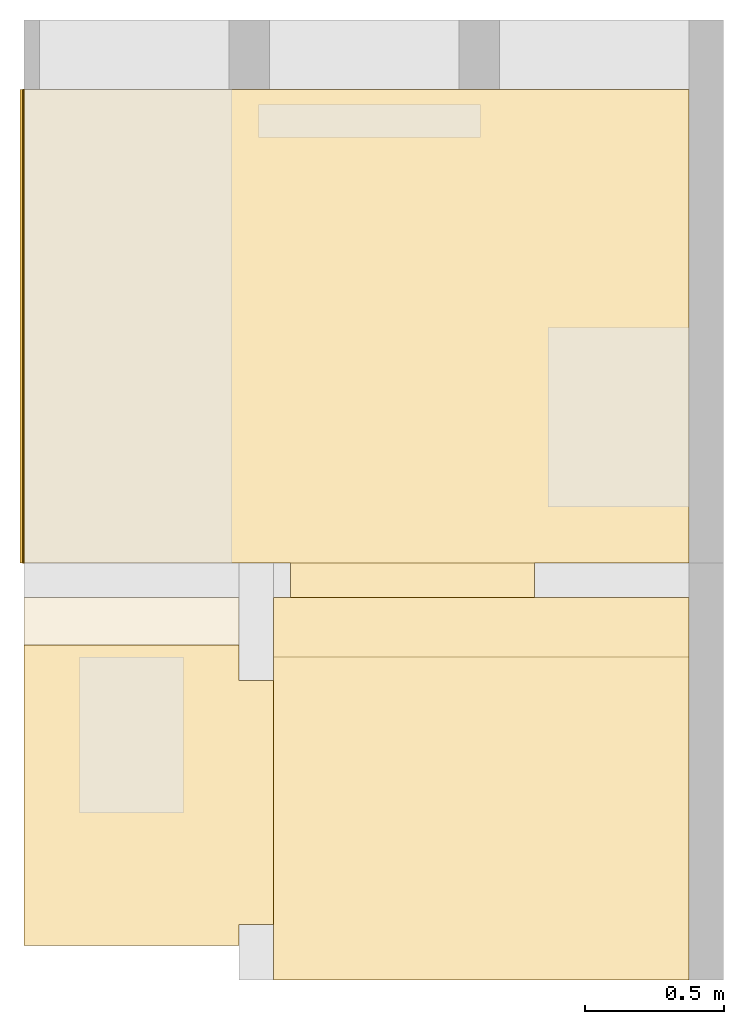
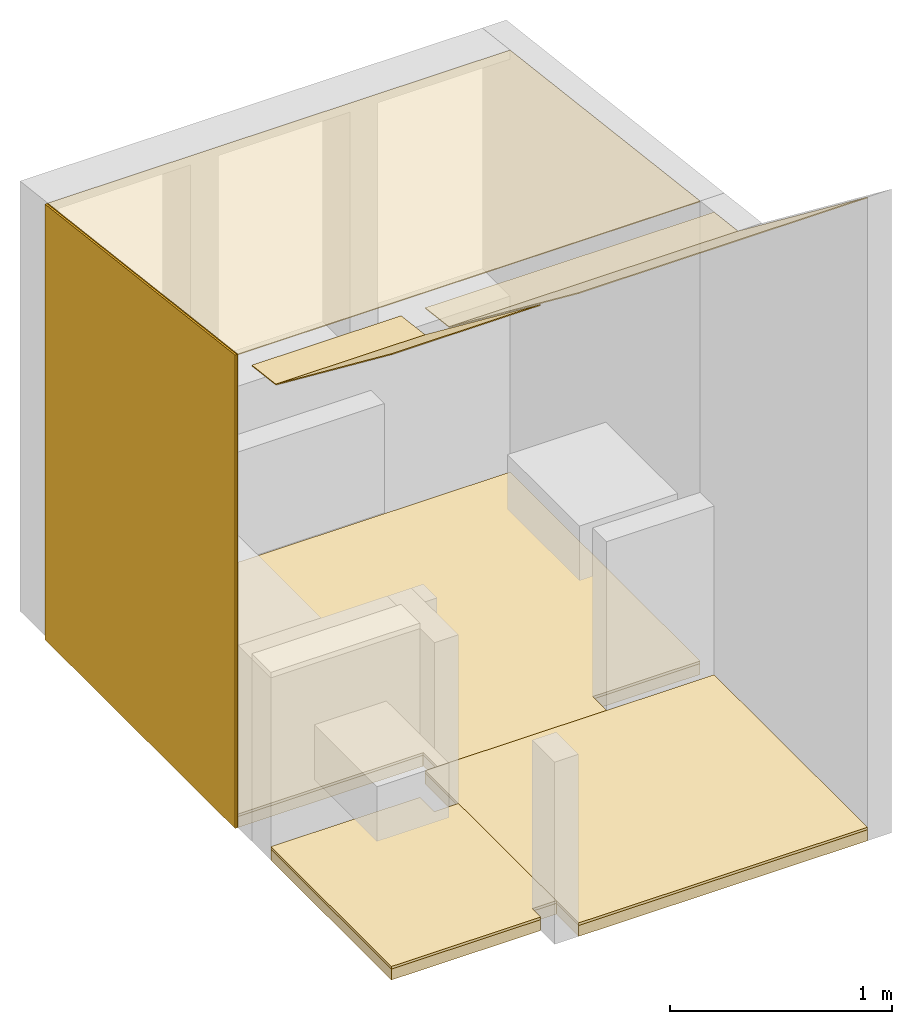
# One storey, part 2 of 4: 11 coverings, 7 elements without a shape of their own.
"""IFC4 building model written with IfcOpenShell, lengths in metres."""

from ifc_helpers import new_model, entity, si_unit, converted_unit, derived_unit, frame, frame_2d, origin, origin_with_axes, place, context, subcontext, project, spatial, polyline, rectangle, outline, extrude, material, layer, layer_set, layer_usage, element, aggregate, save


model = new_model("IFC4")

# Units and contexts
model_context = context("Model", 3, precision=1e-05, world=origin())
body_context = subcontext(model_context, "Body", "Model", "MODEL_VIEW")
ifc_project = project(units=[si_unit("LENGTHUNIT", "METRE"), si_unit("AREAUNIT", "SQUARE_METRE"), si_unit("VOLUMEUNIT", "CUBIC_METRE"), si_unit("MASSUNIT", "GRAM", prefix="KILO"), converted_unit("PLANEANGLEUNIT", "DEGREE", entity("IfcPlaneAngleMeasure", 0.0174532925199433), si_unit("PLANEANGLEUNIT", "RADIAN"), dimensions=[0, 0, 0, 0, 0, 0, 0]), derived_unit("THERMALTRANSMITTANCEUNIT", [(si_unit("POWERUNIT", "WATT"), 1), (si_unit("THERMODYNAMICTEMPERATUREUNIT", "KELVIN"), -1), (si_unit("LENGTHUNIT", "METRE"), -2)]), derived_unit("VOLUMETRICFLOWRATEUNIT", [(si_unit("LENGTHUNIT", "METRE"), 3), (converted_unit("TIMEUNIT", "hour", entity("IfcTimeMeasure", 3600.0), si_unit("TIMEUNIT", "SECOND"), dimensions=[0, 0, 1, 0, 0, 0, 0]), -1), (si_unit("LENGTHUNIT", "METRE"), -1)])], contexts=[model_context])

# Site, building, storey, space
site_placement = place(None, origin())
site = spatial("IfcSite", under=ifc_project, at=site_placement, Name="Liegenschaft", CompositionType="ELEMENT")
building_placement = place(site_placement, origin())
building = spatial("IfcBuilding", under=site, at=building_placement, Name="Gebäude", CompositionType="ELEMENT")
storey_placement = place(building_placement, origin())
storey = spatial("IfcBuildingStorey", under=building, at=storey_placement, Name="Geschoss 01", CompositionType="ELEMENT", Elevation=0.0)
space_1_placement = place(storey_placement, frame((192.297586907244, 0.442418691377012, 0.0)))
space_1 = spatial("IfcSpace", under=storey, at=space_1_placement, CompositionType="ELEMENT")

# Assembly, covering
assembly_1_placement = place(space_1_placement, frame((-192.297586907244, -0.442418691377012, 0.0)))
assembly_1 = element("IfcElementAssembly", 1, at=assembly_1_placement, inside=space_1, PredefinedType="NOTDEFINED")
ifc_material_1 = material(Name="Putz")
ifc_layer_1 = layer(ifc_material_1, 0.005)
ifc_layer_set_1 = layer_set([ifc_layer_1])
ifc_layer_usage_1 = layer_usage(ifc_layer_set_1, "AXIS3", "POSITIVE", 0.0)
covering_1_placement = place(space_1_placement, frame((0.0, 0.0, 2.61382608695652)))
covering_1 = element("IfcCovering", 2, at=covering_1_placement, material=ifc_layer_usage_1, PredefinedType="CEILING", context=body_context, shape_type="SweptSolid", body=[
    extrude(rectangle(XDim=0.216587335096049, YDim=1.5, at=frame_2d((0.75, -0.108293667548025), x_axis=(0.0, -1.0))), frame((1.5, 1.38, 0.0), z_axis=(0.0, -0.120846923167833, -0.992671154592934), x_axis=(-1.0, 0.0, 0.0)), (0.0, 0.120846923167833, 0.992671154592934), 0.00503691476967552),
    extrude(rectangle(XDim=1.5, YDim=1.46810461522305, at=frame_2d((0.75, 0.734052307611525), x_axis=(1.0, -7.5791225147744e-17))), frame((1.5, 0.0, 0.919541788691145), z_axis=(-2.64321131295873e-17, -0.608517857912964, -0.79354017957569), x_axis=(-1.0, 4.34368733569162e-17, 0.0)), (0.0, 0.608517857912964, 0.79354017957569), 0.00630087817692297),
])
aggregate(assembly_1, [covering_1])

# Assembly, coverings
assembly_2_placement = place(space_1_placement, frame((-192.297586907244, -0.442418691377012, 0.0)))
assembly_2 = element("IfcElementAssembly", 3, at=assembly_2_placement, inside=space_1, PredefinedType="NOTDEFINED")
ifc_material_2 = material(Name="OSB Platte")
ifc_layer_2 = layer(ifc_material_2, 0.06)
ifc_layer_set_2 = layer_set([ifc_layer_2])
ifc_layer_usage_2 = layer_usage(ifc_layer_set_2, "AXIS3", "POSITIVE", 0.0)
covering_2_placement = place(space_1_placement, origin())
covering_2 = element("IfcCovering", 4, at=covering_2_placement, material=ifc_layer_usage_2, PredefinedType="FLOORING", context=body_context, shape_type="SweptSolid", body=[
    extrude(rectangle(XDim=1.5, YDim=1.38, at=frame_2d((-0.75, -0.69), x_axis=(-1.0, 0.0))), frame((1.5, 1.38, 0.0), z_axis=(0.0, 0.0, 1.0), x_axis=(1.0, 0.0, 0.0)), (0.0, 0.0, 1.0), 0.06),
])
ifc_material_3 = material(Name="Fliesen")
ifc_layer_3 = layer(ifc_material_3, 0.014)
ifc_layer_set_3 = layer_set([ifc_layer_3])
ifc_layer_usage_3 = layer_usage(ifc_layer_set_3, "AXIS3", "POSITIVE", 0.0)
covering_3_placement = place(space_1_placement, frame((0.0, 0.0, 0.06)))
covering_3 = element("IfcCovering", 5, at=covering_3_placement, material=ifc_layer_usage_3, PredefinedType="FLOORING", context=body_context, shape_type="SweptSolid", body=[
    extrude(rectangle(XDim=1.5, YDim=1.38, at=frame_2d((-0.75, -0.69), x_axis=(-1.0, 0.0))), frame((1.5, 1.38, 0.0), z_axis=(0.0, 0.0, 1.0), x_axis=(1.0, 0.0, 0.0)), (0.0, 0.0, 1.0), 0.014),
])
aggregate(assembly_2, [covering_2, covering_3])

# Space
space_2_placement = place(storey_placement, frame((191.397586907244, 0.567418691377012, 0.0)))
space_2 = spatial("IfcSpace", under=storey, at=space_2_placement, CompositionType="ELEMENT")

# Assembly, covering
assembly_3_placement = place(space_2_placement, frame((-191.397586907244, -0.567418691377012, 0.0)))
assembly_3 = element("IfcElementAssembly", 6, at=assembly_3_placement, inside=space_2, PredefinedType="NOTDEFINED")
ifc_material_4 = material(Name="Putz")
ifc_layer_4 = layer(ifc_material_4, 0.005)
ifc_layer_set_4 = layer_set([ifc_layer_4])
ifc_layer_usage_4 = layer_usage(ifc_layer_set_4, "AXIS3", "POSITIVE", 0.0)
covering_4_placement = place(space_2_placement, frame((0.0, 0.0, 2.61382608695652)))
covering_4 = element("IfcCovering", 7, at=covering_4_placement, material=ifc_layer_usage_4, PredefinedType="CEILING", context=body_context, shape_type="SweptSolid", body=[
    extrude(rectangle(XDim=0.775, YDim=0.216587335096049, at=frame_2d((-0.3875, -0.108293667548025), x_axis=(-1.0, 0.0))), frame((0.0, 1.255, 0.0), z_axis=(1.35458237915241e-18, -0.120846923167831, -0.992671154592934), x_axis=(-1.0, -1.12090762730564e-17, 0.0)), (0.0, 0.120846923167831, 0.992671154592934), 0.00503691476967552),
    extrude(rectangle(XDim=0.775, YDim=1.31058266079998, at=frame_2d((0.3875, 0.655291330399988), x_axis=(1.0, 0.0))), frame((0.775, 0.0, 0.823686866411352), z_axis=(0.0, -0.608517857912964, -0.79354017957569), x_axis=(-1.0, 0.0, 0.0)), (0.0, 0.608517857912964, 0.79354017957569), 0.00630087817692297),
])
aggregate(assembly_3, [covering_4])

# Assembly, coverings
assembly_4_placement = place(space_2_placement, frame((-191.397586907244, -0.567418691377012, 0.0)))
assembly_4 = element("IfcElementAssembly", 8, at=assembly_4_placement, inside=space_2, PredefinedType="NOTDEFINED")
ifc_material_5 = material(Name="OSB Platte")
ifc_layer_5 = layer(ifc_material_5, 0.06)
ifc_layer_set_5 = layer_set([ifc_layer_5])
ifc_layer_usage_5 = layer_usage(ifc_layer_set_5, "AXIS3", "POSITIVE", 0.0)
covering_5_placement = place(space_2_placement, origin())
covering_5 = element("IfcCovering", 9, at=covering_5_placement, material=ifc_layer_usage_5, PredefinedType="FLOORING", context=body_context, shape_type="SweptSolid", body=[
    extrude(rectangle(XDim=0.125, YDim=0.88, at=frame_2d((0.0625, 0.44), x_axis=(1.0, 0.0))), frame((0.775, 0.076, 0.0), z_axis=(0.0, 0.0, 1.0), x_axis=(1.0, 0.0, 0.0)), (0.0, 0.0, 1.0), 0.06),
    extrude(rectangle(XDim=0.775, YDim=1.085, at=frame_2d((0.3875, 0.5425), x_axis=(1.0, 0.0))), origin_with_axes(), (0.0, 0.0, 1.0), 0.06),
])
ifc_material_6 = material(Name="Fliesen")
ifc_layer_6 = layer(ifc_material_6, 0.014)
ifc_layer_set_6 = layer_set([ifc_layer_6])
ifc_layer_usage_6 = layer_usage(ifc_layer_set_6, "AXIS3", "POSITIVE", 0.0)
covering_6_placement = place(space_2_placement, frame((0.0, 0.0, 0.0599999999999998)))
covering_6 = element("IfcCovering", 10, at=covering_6_placement, material=ifc_layer_usage_6, PredefinedType="FLOORING", context=body_context, shape_type="SweptSolid", body=[
    extrude(rectangle(XDim=0.125, YDim=0.88, at=frame_2d((0.0625, 0.44), x_axis=(1.0, 0.0))), frame((0.775, 0.076, 0.0), z_axis=(0.0, 0.0, 1.0), x_axis=(1.0, 0.0, 0.0)), (0.0, 0.0, 1.0), 0.014),
    extrude(rectangle(XDim=0.775, YDim=1.085, at=frame_2d((0.3875, 0.5425), x_axis=(1.0, 0.0))), origin_with_axes(), (0.0, 0.0, 1.0), 0.014),
])
aggregate(assembly_4, [covering_5, covering_6])

# Space
space_3_placement = place(storey_placement, frame((191.397586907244, 1.94741869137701, 0.0)))
space_3 = spatial("IfcSpace", under=storey, at=space_3_placement, CompositionType="ELEMENT")

# Assembly, covering
assembly_5_placement = place(space_3_placement, frame((-191.397586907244, -1.94741869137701, 0.0)))
assembly_5 = element("IfcElementAssembly", 11, at=assembly_5_placement, inside=space_3, PredefinedType="NOTDEFINED")
ifc_material_7 = material(Name="Putz")
ifc_layer_7 = layer(ifc_material_7, 0.005)
ifc_layer_set_7 = layer_set([ifc_layer_7])
ifc_layer_usage_7 = layer_usage(ifc_layer_set_7, "AXIS3", "POSITIVE", 0.0)
covering_7_placement = place(space_3_placement, frame((0.0, 0.0, 2.3904347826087)))
covering_7 = element("IfcCovering", 12, at=covering_7_placement, material=ifc_layer_usage_7, PredefinedType="CEILING", context=body_context, shape_type="SweptSolid", body=[
    extrude(rectangle(XDim=1.72262485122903, YDim=2.4, at=frame_2d((-1.2, 0.861312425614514), x_axis=(0.0, 1.0))), frame((0.0, 0.0, 0.208173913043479), z_axis=(0.0, -0.120846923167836, -0.992671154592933), x_axis=(-1.0, 0.0, 0.0)), (0.0, 0.120846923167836, 0.992671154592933), 0.00503691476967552),
])
aggregate(assembly_5, [covering_7])

# Assembly, coverings
assembly_6_placement = place(space_3_placement, frame((-191.397586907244, -1.94741869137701, 0.0)))
assembly_6 = element("IfcElementAssembly", 13, at=assembly_6_placement, inside=space_3, PredefinedType="NOTDEFINED")
ifc_material_8 = material(Name="OSB Platte")
ifc_layer_8 = layer(ifc_material_8, 0.06)
ifc_layer_set_8 = layer_set([ifc_layer_8])
ifc_layer_usage_8 = layer_usage(ifc_layer_set_8, "AXIS3", "POSITIVE", 0.0)
covering_8_placement = place(space_3_placement, frame((0.0, -0.125, 0.0)))
covering_8 = element("IfcCovering", 14, at=covering_8_placement, material=ifc_layer_usage_8, PredefinedType="FLOORING", context=body_context, shape_type="SweptSolid", body=[
    extrude(rectangle(XDim=0.125, YDim=0.88, at=frame_2d((0.44, -0.0625), x_axis=(0.0, -1.0))), frame((0.962, 0.125, 0.0), z_axis=(0.0, 0.0, 1.0), x_axis=(1.0, 0.0, 0.0)), (0.0, 0.0, 1.0), 0.06),
    extrude(rectangle(XDim=1.71, YDim=2.4, at=frame_2d((1.2, -0.855), x_axis=(0.0, -1.0))), frame((0.0, 1.835, 0.0), z_axis=(0.0, 0.0, 1.0), x_axis=(1.0, 0.0, 0.0)), (0.0, 0.0, 1.0), 0.06),
])
ifc_material_9 = material(Name="Fliesen")
ifc_layer_9 = layer(ifc_material_9, 0.014)
ifc_layer_set_9 = layer_set([ifc_layer_9])
ifc_layer_usage_9 = layer_usage(ifc_layer_set_9, "AXIS3", "POSITIVE", 0.0)
covering_9_placement = place(space_3_placement, frame((0.0, -0.125, 0.06)))
covering_9 = element("IfcCovering", 15, at=covering_9_placement, material=ifc_layer_usage_9, PredefinedType="FLOORING", context=body_context, shape_type="SweptSolid", body=[
    extrude(rectangle(XDim=0.125, YDim=0.88, at=frame_2d((0.44, -0.0625), x_axis=(0.0, -1.0))), frame((0.962, 0.125, 0.0), z_axis=(0.0, 0.0, 1.0), x_axis=(1.0, 0.0, 0.0)), (0.0, 0.0, 1.0), 0.014),
    extrude(rectangle(XDim=1.71, YDim=2.4, at=frame_2d((1.2, -0.855), x_axis=(0.0, -1.0))), frame((0.0, 1.835, 0.0), z_axis=(0.0, 0.0, 1.0), x_axis=(1.0, 0.0, 0.0)), (0.0, 0.0, 1.0), 0.014),
])
aggregate(assembly_6, [covering_8, covering_9])

assembly_7_placement = place(space_3_placement, frame((-191.397586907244, -1.94741869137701, 0.0)))
assembly_7 = element("IfcElementAssembly", 16, at=assembly_7_placement, inside=space_3, PredefinedType="NOTDEFINED")
ifc_material_10 = material(Name="Putz")
ifc_layer_10 = layer(ifc_material_10, 0.005)
ifc_layer_set_10 = layer_set([ifc_layer_10])
ifc_layer_usage_10 = layer_usage(ifc_layer_set_10, "AXIS3", "POSITIVE", 0.0)
covering_10_placement = place(space_3_placement, origin())
covering_10 = element("IfcCovering", 17, at=covering_10_placement, material=ifc_layer_usage_10, PredefinedType="CLADDING", context=body_context, shape_type="SweptSolid", body=[
    extrude(outline(polyline([(1.71, 2.59860869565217), (1.71, 0.208173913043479), (0.0, 0.0), (0.0, 2.59860869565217), (1.71, 2.59860869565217)])), frame((0.0, 0.0, 2.59860869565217), z_axis=(-1.0, 0.0, 0.0), x_axis=(0.0, 1.0, 0.0)), (0.0, 0.0, 1.0), 0.005),
])
ifc_material_11 = material(Name="Fliesen")
ifc_layer_11 = layer(ifc_material_11, 0.01)
ifc_layer_set_11 = layer_set([ifc_layer_11])
ifc_layer_usage_11 = layer_usage(ifc_layer_set_11, "AXIS3", "POSITIVE", 0.0)
covering_11_placement = place(space_3_placement, origin())
covering_11 = element("IfcCovering", 18, at=covering_11_placement, material=ifc_layer_usage_11, PredefinedType="CLADDING", context=body_context, shape_type="SweptSolid", body=[
    extrude(outline(polyline([(1.71, 2.59860869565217), (1.71, 0.208173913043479), (0.0, 0.0), (0.0, 2.59860869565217), (1.71, 2.59860869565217)])), frame((-0.005, 0.0, 2.59860869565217), z_axis=(-1.0, 0.0, 0.0), x_axis=(0.0, 1.0, 0.0)), (0.0, 0.0, 1.0), 0.01),
])
aggregate(assembly_7, [covering_10, covering_11])

save(model, "model.ifc")
